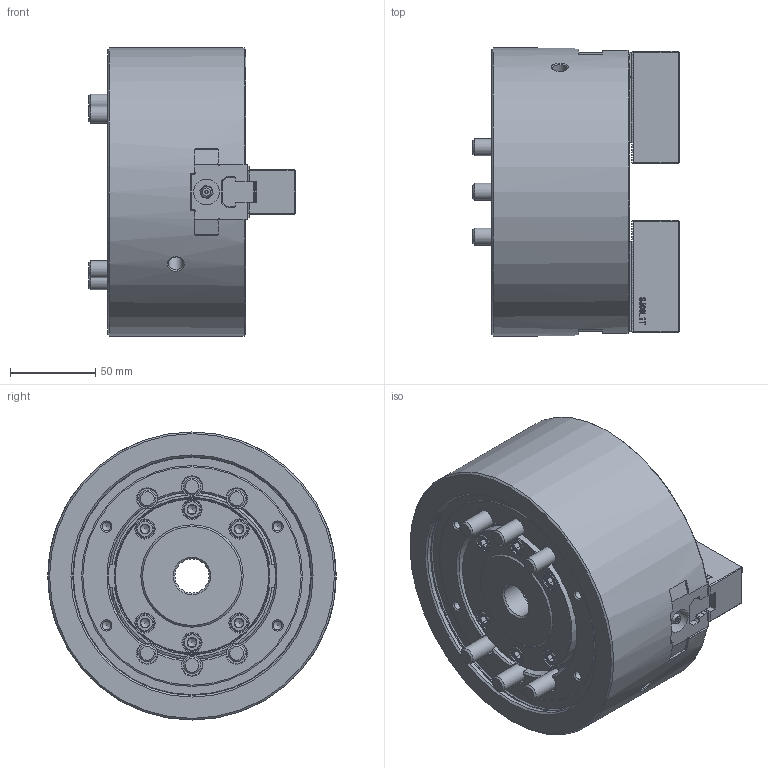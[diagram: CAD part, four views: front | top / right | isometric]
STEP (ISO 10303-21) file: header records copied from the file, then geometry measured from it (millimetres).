
FILE_DESCRIPTION (( 'STEP AP214' ), '1' );
FILE_NAME ('DT1_BT206_OUTSIDE_VIEW_OC.STEP', '2024-05-08T23:59:34', ( '' ), ( '' ), 'SwSTEP 2.0', 'SolidWorks 2022', '' );
FILE_SCHEMA (( 'AUTOMOTIVE_DESIGN' ));
Length unit declared in the file: millimetre
Products named in the file (9): DT1_BT206_OUTSIDE_VIEW_OC; DT1_BT206_TNUT^DT1-BT206_ﾃﾞﾌｫﾙﾄ; DT1_BT206_COVER^DT1-BT206_ﾃﾞﾌｫﾙﾄ; DT1_BT206_M10x80^DT1-BT206_ﾃﾞﾌｫﾙﾄ; DT1_BT206_SOFTJAW^DT1-BT206_ﾃﾞﾌｫﾙﾄ; DT1_BT206_DRAWNUT^DT1-BT206_ﾃﾞﾌｫﾙﾄ; DT1_BT206_M10x25^DT1-BT206_ﾃﾞﾌｫﾙﾄ; DT1_BT206_M5x10^DT1-BT206_ﾃﾞﾌｫﾙﾄ; DT1_BT206_BASE^DT1-BT206_ﾃﾞﾌｫﾙﾄ
Assembly tree (21 placements, depth 2):
  DT1_BT206_OUTSIDE_VIEW_OC
    DT1_BT206_SOFTJAW^DT1-BT206_ﾃﾞﾌｫﾙﾄ  x2
    DT1_BT206_TNUT^DT1-BT206_ﾃﾞﾌｫﾙﾄ  x2
    DT1_BT206_DRAWNUT^DT1-BT206_ﾃﾞﾌｫﾙﾄ
    DT1_BT206_COVER^DT1-BT206_ﾃﾞﾌｫﾙﾄ
    DT1_BT206_BASE^DT1-BT206_ﾃﾞﾌｫﾙﾄ
    DT1_BT206_M5x10^DT1-BT206_ﾃﾞﾌｫﾙﾄ  x4
    DT1_BT206_M10x25^DT1-BT206_ﾃﾞﾌｫﾙﾄ  x4
    DT1_BT206_M10x80^DT1-BT206_ﾃﾞﾌｫﾙﾄ  x6
Bounding box: 121 x 169 x 169 mm (x, y, z)
Volume: 1672445.7 mm3; surface area: 234256.1 mm2
Topology: 21 solids, 29 shells, 2700 faces, 7460 edges, 4912 vertices
Faces by surface type: plane 1843, cylinder 328, bspline 271, cone 231, torus 25, sphere 2
Full cylindrical faces by diameter (mm): 2 x2, 4.2 x4, 5 x8, 5.5 x4, 8.5 x2, 8.6 x4, 9.5 x4, 10 x14, 10.22 x6, 11 x10, 12 x6, 15 x2, 16.27 x10, 17 x10, 20 x1, 45 x1, 48 x2, 55.5 x1, 57.8 x2, 60 x2, 65.5 x2, 90.7 x1, 91 x1, 140 x1, 140.8 x1, 169 x1
Entity records: 74423 total; most frequent: CARTESIAN_POINT 23773, ORIENTED_EDGE 11240, DIRECTION 8830, EDGE_CURVE 5620, VECTOR 3952, LINE 3952, VERTEX_POINT 3792, AXIS2_PLACEMENT_3D 2439
